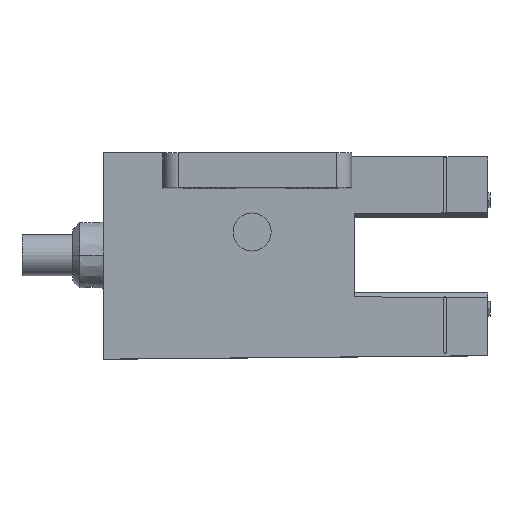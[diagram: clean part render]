
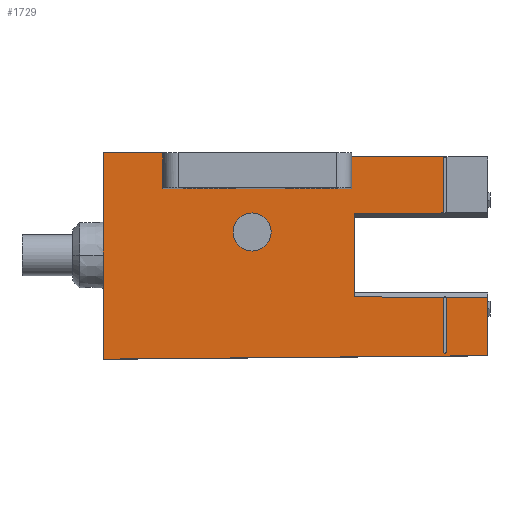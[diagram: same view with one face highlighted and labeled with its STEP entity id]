
A CAD part, top view. The second image highlights one B-rep face of the part: STEP entity #1729.
In plain terms, the highlighted planar face has unit normal (0, 0, 1).
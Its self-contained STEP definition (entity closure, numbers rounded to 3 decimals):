
#25=DIRECTION('',(0.,-1.,0.));
#26=VECTOR('',#25,14.08);
#27=CARTESIAN_POINT('',(0.,6.98,6.284));
#28=LINE('',#27,#26);
#61=DIRECTION('',(0.,1.,0.));
#62=VECTOR('',#61,3.973);
#63=CARTESIAN_POINT('',(26.24,-6.862,6.284));
#64=LINE('',#63,#62);
#105=DIRECTION('',(-1.,-0.009,0.));
#106=VECTOR('',#105,26.241);
#107=CARTESIAN_POINT('',(26.24,-6.862,6.284));
#108=LINE('',#107,#106);
#109=DIRECTION('',(1.,0.,0.));
#110=VECTOR('',#109,4.05);
#111=CARTESIAN_POINT('',(0.,6.98,6.284));
#112=LINE('',#111,#110);
#113=DIRECTION('',(0.,-1.,0.));
#114=VECTOR('',#113,2.45);
#115=CARTESIAN_POINT('',(4.05,6.98,6.284));
#116=LINE('',#115,#114);
#117=DIRECTION('',(1.,0.,0.));
#118=VECTOR('',#117,12.9);
#119=CARTESIAN_POINT('',(4.05,4.53,6.284));
#120=LINE('',#119,#118);
#121=DIRECTION('',(0.,1.,0.));
#122=VECTOR('',#121,2.17);
#123=CARTESIAN_POINT('',(16.95,4.53,6.284));
#124=LINE('',#123,#122);
#125=CARTESIAN_POINT('',(23.315,6.59,6.284));
#126=DIRECTION('',(0.,0.,1.));
#127=DIRECTION('',(0.,1.,0.));
#128=AXIS2_PLACEMENT_3D('',#125,#126,#127);
#130=CARTESIAN_POINT('',(23.315,2.96,6.284));
#131=DIRECTION('',(0.,0.,1.));
#132=DIRECTION('',(-1.,0.,0.));
#133=AXIS2_PLACEMENT_3D('',#130,#131,#132);
#135=DIRECTION('',(0.,-1.,0.));
#136=VECTOR('',#135,5.7);
#137=CARTESIAN_POINT('',(17.12,2.85,6.284));
#138=LINE('',#137,#136);
#139=DIRECTION('',(1.,-0.004,0.));
#140=VECTOR('',#139,6.124);
#141=CARTESIAN_POINT('',(17.12,-2.85,6.284));
#142=LINE('',#141,#140);
#143=CARTESIAN_POINT('',(23.315,-2.96,6.284));
#144=DIRECTION('',(0.,0.,1.));
#145=DIRECTION('',(-0.647,0.763,0.));
#146=AXIS2_PLACEMENT_3D('',#143,#144,#145);
#148=DIRECTION('',(0.,-1.,0.));
#149=VECTOR('',#148,3.63);
#150=CARTESIAN_POINT('',(23.205,-2.96,6.284));
#151=LINE('',#150,#149);
#152=CARTESIAN_POINT('',(23.315,-6.59,6.284));
#153=DIRECTION('',(0.,0.,1.));
#154=DIRECTION('',(-1.,0.,0.));
#155=AXIS2_PLACEMENT_3D('',#152,#153,#154);
#157=CARTESIAN_POINT('',(23.315,-2.96,6.284));
#158=DIRECTION('',(0.,0.,1.));
#159=DIRECTION('',(1.,0.,0.));
#160=AXIS2_PLACEMENT_3D('',#157,#158,#159);
#162=DIRECTION('',(1.,-0.004,0.));
#163=VECTOR('',#162,2.853);
#164=CARTESIAN_POINT('',(23.387,-2.877,6.284));
#165=LINE('',#164,#163);
#166=CARTESIAN_POINT('',(10.15,1.58,6.284));
#167=DIRECTION('',(0.,0.,1.));
#168=DIRECTION('',(1.,0.,0.));
#169=AXIS2_PLACEMENT_3D('',#166,#167,#168);
#171=CARTESIAN_POINT('',(10.15,1.58,6.284));
#172=DIRECTION('',(0.,0.,1.));
#173=DIRECTION('',(-1.,0.,0.));
#174=AXIS2_PLACEMENT_3D('',#171,#172,#173);
#250=DIRECTION('',(-1.,0.,0.));
#251=VECTOR('',#250,6.365);
#252=CARTESIAN_POINT('',(23.315,6.7,6.284));
#253=LINE('',#252,#251);
#322=DIRECTION('',(1.,0.004,0.));
#323=VECTOR('',#322,6.124);
#324=CARTESIAN_POINT('',(17.12,2.85,6.284));
#325=LINE('',#324,#323);
#339=DIRECTION('',(0.,1.,0.));
#340=VECTOR('',#339,3.63);
#341=CARTESIAN_POINT('',(23.205,2.96,6.284));
#342=LINE('',#341,#340);
#452=DIRECTION('',(0.,-1.,0.));
#453=VECTOR('',#452,3.63);
#454=CARTESIAN_POINT('',(23.425,-2.96,6.284));
#455=LINE('',#454,#453);
#1240=CARTESIAN_POINT('',(0.,-7.1,6.284));
#1241=VERTEX_POINT('',#1240);
#1242=CARTESIAN_POINT('',(0.,6.98,6.284));
#1243=VERTEX_POINT('',#1242);
#1400=CARTESIAN_POINT('',(26.24,-6.862,6.284));
#1401=VERTEX_POINT('',#1400);
#1424=CARTESIAN_POINT('',(26.24,-2.889,6.284));
#1425=VERTEX_POINT('',#1424);
#1444=CARTESIAN_POINT('',(23.244,2.876,6.284));
#1446=VERTEX_POINT('',#1444);
#1450=CARTESIAN_POINT('',(17.12,2.85,6.284));
#1451=VERTEX_POINT('',#1450);
#1452=CARTESIAN_POINT('',(23.205,2.96,6.284));
#1453=VERTEX_POINT('',#1452);
#1460=CARTESIAN_POINT('',(4.05,6.98,6.284));
#1461=VERTEX_POINT('',#1460);
#1462=CARTESIAN_POINT('',(4.05,4.53,6.284));
#1463=VERTEX_POINT('',#1462);
#1464=CARTESIAN_POINT('',(16.95,4.53,6.284));
#1465=VERTEX_POINT('',#1464);
#1466=CARTESIAN_POINT('',(16.95,6.7,6.284));
#1467=VERTEX_POINT('',#1466);
#1468=CARTESIAN_POINT('',(23.315,6.7,6.284));
#1469=VERTEX_POINT('',#1468);
#1470=CARTESIAN_POINT('',(23.205,6.59,6.284));
#1471=VERTEX_POINT('',#1470);
#1472=CARTESIAN_POINT('',(17.12,-2.85,6.284));
#1473=VERTEX_POINT('',#1472);
#1474=CARTESIAN_POINT('',(23.244,-2.876,6.284));
#1475=VERTEX_POINT('',#1474);
#1476=CARTESIAN_POINT('',(23.205,-2.96,6.284));
#1477=VERTEX_POINT('',#1476);
#1478=CARTESIAN_POINT('',(23.205,-6.59,6.284));
#1479=VERTEX_POINT('',#1478);
#1480=CARTESIAN_POINT('',(23.425,-6.59,6.284));
#1481=VERTEX_POINT('',#1480);
#1482=CARTESIAN_POINT('',(23.425,-2.96,6.284));
#1483=VERTEX_POINT('',#1482);
#1484=CARTESIAN_POINT('',(23.387,-2.877,6.284));
#1485=VERTEX_POINT('',#1484);
#1486=CARTESIAN_POINT('',(11.45,1.58,6.284));
#1487=CARTESIAN_POINT('',(8.85,1.58,6.284));
#1488=VERTEX_POINT('',#1486);
#1489=VERTEX_POINT('',#1487);
#1679=CARTESIAN_POINT('',(0.,0.,6.284));
#1680=DIRECTION('',(0.,0.,1.));
#1681=DIRECTION('',(-1.,0.,0.));
#1682=AXIS2_PLACEMENT_3D('',#1679,#1680,#1681);
#1683=PLANE('',#1682);
#1684=ORIENTED_EDGE('',*,*,#1652,.F.);
#1685=ORIENTED_EDGE('',*,*,#1640,.T.);
#1686=ORIENTED_EDGE('',*,*,#1608,.F.);
#1688=ORIENTED_EDGE('',*,*,#1687,.T.);
#1690=ORIENTED_EDGE('',*,*,#1689,.T.);
#1692=ORIENTED_EDGE('',*,*,#1691,.T.);
#1694=ORIENTED_EDGE('',*,*,#1693,.T.);
#1696=ORIENTED_EDGE('',*,*,#1695,.F.);
#1698=ORIENTED_EDGE('',*,*,#1697,.T.);
#1700=ORIENTED_EDGE('',*,*,#1699,.F.);
#1702=ORIENTED_EDGE('',*,*,#1701,.T.);
#1704=ORIENTED_EDGE('',*,*,#1703,.F.);
#1706=ORIENTED_EDGE('',*,*,#1705,.T.);
#1708=ORIENTED_EDGE('',*,*,#1707,.T.);
#1710=ORIENTED_EDGE('',*,*,#1709,.T.);
#1712=ORIENTED_EDGE('',*,*,#1711,.T.);
#1714=ORIENTED_EDGE('',*,*,#1713,.T.);
#1716=ORIENTED_EDGE('',*,*,#1715,.F.);
#1718=ORIENTED_EDGE('',*,*,#1717,.T.);
#1720=ORIENTED_EDGE('',*,*,#1719,.T.);
#1721=EDGE_LOOP('',(#1684,#1685,#1686,#1688,#1690,#1692,#1694,#1696,#1698,#1700,
#1702,#1704,#1706,#1708,#1710,#1712,#1714,#1716,#1718,#1720));
#1722=FACE_OUTER_BOUND('',#1721,.F.);
#1724=ORIENTED_EDGE('',*,*,#1723,.T.);
#1726=ORIENTED_EDGE('',*,*,#1725,.T.);
#1727=EDGE_LOOP('',(#1724,#1726));
#1728=FACE_BOUND('',#1727,.F.);
#1729=ADVANCED_FACE('',(#1722,#1728),#1683,.T.);
#129=CIRCLE('',#128,0.11);
#134=CIRCLE('',#133,0.11);
#147=CIRCLE('',#146,0.11);
#156=CIRCLE('',#155,0.11);
#161=CIRCLE('',#160,0.11);
#170=CIRCLE('',#169,1.3);
#175=CIRCLE('',#174,1.3);
#1608=EDGE_CURVE('',#1243,#1241,#28,.T.);
#1640=EDGE_CURVE('',#1401,#1241,#108,.T.);
#1652=EDGE_CURVE('',#1401,#1425,#64,.T.);
#1687=EDGE_CURVE('',#1243,#1461,#112,.T.);
#1689=EDGE_CURVE('',#1461,#1463,#116,.T.);
#1691=EDGE_CURVE('',#1463,#1465,#120,.T.);
#1693=EDGE_CURVE('',#1465,#1467,#124,.T.);
#1695=EDGE_CURVE('',#1469,#1467,#253,.T.);
#1697=EDGE_CURVE('',#1469,#1471,#129,.T.);
#1699=EDGE_CURVE('',#1453,#1471,#342,.T.);
#1701=EDGE_CURVE('',#1453,#1446,#134,.T.);
#1703=EDGE_CURVE('',#1451,#1446,#325,.T.);
#1705=EDGE_CURVE('',#1451,#1473,#138,.T.);
#1707=EDGE_CURVE('',#1473,#1475,#142,.T.);
#1709=EDGE_CURVE('',#1475,#1477,#147,.T.);
#1711=EDGE_CURVE('',#1477,#1479,#151,.T.);
#1713=EDGE_CURVE('',#1479,#1481,#156,.T.);
#1715=EDGE_CURVE('',#1483,#1481,#455,.T.);
#1717=EDGE_CURVE('',#1483,#1485,#161,.T.);
#1719=EDGE_CURVE('',#1485,#1425,#165,.T.);
#1723=EDGE_CURVE('',#1488,#1489,#170,.T.);
#1725=EDGE_CURVE('',#1489,#1488,#175,.T.);
